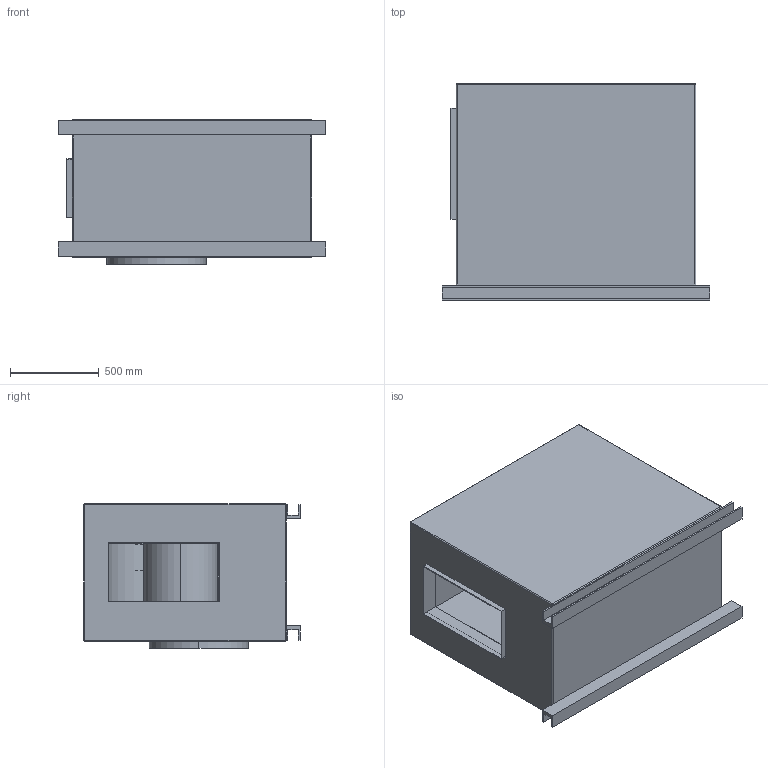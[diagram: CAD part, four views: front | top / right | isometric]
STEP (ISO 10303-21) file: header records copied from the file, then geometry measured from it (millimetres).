
FILE_DESCRIPTION(('STEP AP214'),'1');
FILE_NAME('fan_sptr000122_h.stp','2017-03-31T12:38:38',('TraceParts'),('TraceParts S.A.'),'Spatial InterOp 3D',' ',' ');
FILE_SCHEMA(('automotive_design'));
Length unit declared in the file: millimetre
Products named in the file (1): fan_sptr000122_h
Bounding box: 1510 x 1220 x 815 mm (x, y, z)
Volume: 454250344.2 mm3; surface area: 18406414.6 mm2
Topology: 1 solids, 1 shells, 169 faces, 449 edges, 278 vertices
Faces by surface type: plane 106, cylinder 51, sphere 8, torus 4
Entity records: 6559 total; most frequent: DIRECTION 929, CARTESIAN_POINT 889, ORIENTED_EDGE 882, EDGE_CURVE 441, AXIS2_PLACEMENT_3D 318, LINE 293, VECTOR 293, VERTEX_POINT 278
